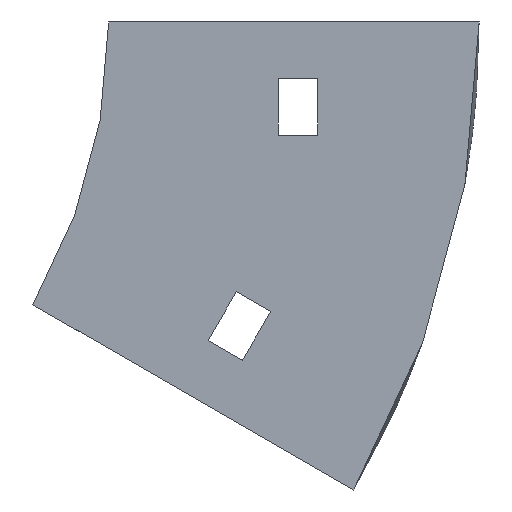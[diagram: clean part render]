
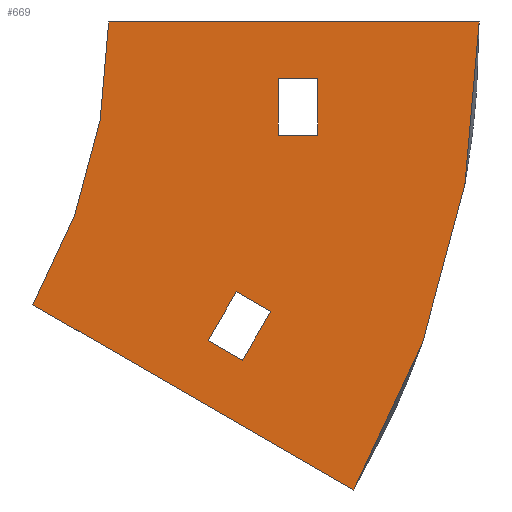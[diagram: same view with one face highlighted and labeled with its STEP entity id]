
A CAD part, left-side view. The second image highlights one B-rep face of the part: STEP entity #669.
In plain terms, the highlighted planar face has unit normal (-1, 0, 0).
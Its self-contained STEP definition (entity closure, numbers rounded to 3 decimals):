
#2 = CARTESIAN_POINT ( 'NONE',  ( -252., -65.5, 0. ) ) ;
#10 = CARTESIAN_POINT ( 'NONE',  ( -252., 100., 0. ) ) ;
#28 = CARTESIAN_POINT ( 'NONE',  ( -252., -37., -10. ) ) ;
#29 = VECTOR ( 'NONE', #73, 1000. ) ;
#42 = DIRECTION ( 'NONE',  ( 0., 0.866, 0.5 ) ) ;
#46 = VERTEX_POINT ( 'NONE', #259 ) ;
#73 = DIRECTION ( 'NONE',  ( 0., 0.5, -0.866 ) ) ;
#84 = CIRCLE ( 'NONE', #857, 165.5 ) ;
#113 = DIRECTION ( 'NONE',  ( 1., 0., 0. ) ) ;
#118 = CARTESIAN_POINT ( 'NONE',  ( -252., -65.5, 0. ) ) ;
#127 = CARTESIAN_POINT ( 'NONE',  ( -252., 13.397, -50. ) ) ;
#132 = DIRECTION ( 'NONE',  ( 0., 0., -1. ) ) ;
#140 = VERTEX_POINT ( 'NONE', #326 ) ;
#146 = ORIENTED_EDGE ( 'NONE', *, *, #171, .F. ) ;
#171 = EDGE_CURVE ( 'NONE', #46, #651, #535, .T. ) ;
#178 = DIRECTION ( 'NONE',  ( 0., -0.5, 0.866 ) ) ;
#180 = EDGE_CURVE ( 'NONE', #651, #762, #707, .T. ) ;
#181 = FACE_BOUND ( 'NONE', #893, .T. ) ;
#202 = CARTESIAN_POINT ( 'NONE',  ( -252., -30., -10. ) ) ;
#205 = ORIENTED_EDGE ( 'NONE', *, *, #297, .T. ) ;
#207 = FACE_OUTER_BOUND ( 'NONE', #215, .T. ) ;
#215 = EDGE_LOOP ( 'NONE', ( #718, #587, #1002, #828 ) ) ;
#216 = VERTEX_POINT ( 'NONE', #1130 ) ;
#224 = CARTESIAN_POINT ( 'NONE',  ( -252., -22.583, -47.679 ) ) ;
#259 = CARTESIAN_POINT ( 'NONE',  ( -252., -17.583, -56.34 ) ) ;
#270 = ORIENTED_EDGE ( 'NONE', *, *, #180, .F. ) ;
#294 = PLANE ( 'NONE',  #568 ) ;
#297 = EDGE_CURVE ( 'NONE', #310, #899, #364, .T. ) ;
#308 = LINE ( 'NONE', #2, #403 ) ;
#310 = VERTEX_POINT ( 'NONE', #1085 ) ;
#314 = CIRCLE ( 'NONE', #1102, 100. ) ;
#315 = CARTESIAN_POINT ( 'NONE',  ( -252., -28.645, -51.179 ) ) ;
#320 = CARTESIAN_POINT ( 'NONE',  ( -252., -43.327, -82.75 ) ) ;
#326 = CARTESIAN_POINT ( 'NONE',  ( -252., -37., -20. ) ) ;
#344 = VECTOR ( 'NONE', #426, 1000. ) ;
#364 = LINE ( 'NONE', #202, #854 ) ;
#366 = DIRECTION ( 'NONE',  ( 0., -1., 0. ) ) ;
#380 = FACE_BOUND ( 'NONE', #747, .T. ) ;
#387 = VERTEX_POINT ( 'NONE', #118 ) ;
#403 = VECTOR ( 'NONE', #366, 1000. ) ;
#426 = DIRECTION ( 'NONE',  ( 0., 0., -1. ) ) ;
#436 = DIRECTION ( 'NONE',  ( 0., -0.866, -0.5 ) ) ;
#447 = DIRECTION ( 'NONE',  ( 0., -1., 0. ) ) ;
#457 = DIRECTION ( 'NONE',  ( 0., 0., 1. ) ) ;
#459 = DIRECTION ( 'NONE',  ( 0., 0., -1. ) ) ;
#461 = EDGE_CURVE ( 'NONE', #899, #709, #558, .T. ) ;
#480 = CARTESIAN_POINT ( 'NONE',  ( -252., 0., 0. ) ) ;
#501 = CARTESIAN_POINT ( 'NONE',  ( -252., 100., 0. ) ) ;
#513 = VECTOR ( 'NONE', #820, 1000. ) ;
#517 = EDGE_CURVE ( 'NONE', #216, #549, #314, .T. ) ;
#530 = VECTOR ( 'NONE', #42, 1000. ) ;
#535 = LINE ( 'NONE', #770, #740 ) ;
#549 = VERTEX_POINT ( 'NONE', #480 ) ;
#558 = LINE ( 'NONE', #628, #1028 ) ;
#562 = LINE ( 'NONE', #806, #29 ) ;
#568 = AXIS2_PLACEMENT_3D ( 'NONE', #730, #647, #459 ) ;
#574 = LINE ( 'NONE', #904, #513 ) ;
#587 = ORIENTED_EDGE ( 'NONE', *, *, #666, .F. ) ;
#606 = EDGE_CURVE ( 'NONE', #762, #939, #817, .T. ) ;
#609 = VECTOR ( 'NONE', #178, 1000. ) ;
#626 = EDGE_CURVE ( 'NONE', #939, #46, #562, .T. ) ;
#628 = CARTESIAN_POINT ( 'NONE',  ( -252., -30., -10. ) ) ;
#646 = CARTESIAN_POINT ( 'NONE',  ( -252., -22.583, -47.679 ) ) ;
#647 = DIRECTION ( 'NONE',  ( 1., 0., 0. ) ) ;
#651 = VERTEX_POINT ( 'NONE', #1061 ) ;
#666 = EDGE_CURVE ( 'NONE', #931, #216, #850, .T. ) ;
#669 = ADVANCED_FACE ( 'NONE', ( #207, #181, #380 ), #294, .F. ) ;
#694 = EDGE_CURVE ( 'NONE', #140, #310, #574, .T. ) ;
#707 = LINE ( 'NONE', #985, #609 ) ;
#709 = VERTEX_POINT ( 'NONE', #28 ) ;
#712 = EDGE_CURVE ( 'NONE', #549, #387, #308, .T. ) ;
#718 = ORIENTED_EDGE ( 'NONE', *, *, #517, .F. ) ;
#720 = VECTOR ( 'NONE', #1091, 1000. ) ;
#730 = CARTESIAN_POINT ( 'NONE',  ( -252., 100., 0. ) ) ;
#740 = VECTOR ( 'NONE', #436, 1000. ) ;
#742 = DIRECTION ( 'NONE',  ( -1., 0., 0. ) ) ;
#747 = EDGE_LOOP ( 'NONE', ( #146, #830, #966, #270 ) ) ;
#751 = LINE ( 'NONE', #957, #344 ) ;
#756 = ORIENTED_EDGE ( 'NONE', *, *, #1000, .T. ) ;
#762 = VERTEX_POINT ( 'NONE', #315 ) ;
#770 = CARTESIAN_POINT ( 'NONE',  ( -252., -17.583, -56.34 ) ) ;
#790 = ORIENTED_EDGE ( 'NONE', *, *, #461, .T. ) ;
#806 = CARTESIAN_POINT ( 'NONE',  ( -252., -17.583, -56.34 ) ) ;
#817 = LINE ( 'NONE', #646, #720 ) ;
#820 = DIRECTION ( 'NONE',  ( 0., 1., 0. ) ) ;
#822 = EDGE_CURVE ( 'NONE', #387, #931, #84, .T. ) ;
#828 = ORIENTED_EDGE ( 'NONE', *, *, #712, .F. ) ;
#830 = ORIENTED_EDGE ( 'NONE', *, *, #626, .F. ) ;
#839 = CARTESIAN_POINT ( 'NONE',  ( -252., -30., -10. ) ) ;
#850 = LINE ( 'NONE', #127, #530 ) ;
#854 = VECTOR ( 'NONE', #457, 1000. ) ;
#857 = AXIS2_PLACEMENT_3D ( 'NONE', #10, #113, #925 ) ;
#887 = ORIENTED_EDGE ( 'NONE', *, *, #694, .T. ) ;
#893 = EDGE_LOOP ( 'NONE', ( #205, #790, #756, #887 ) ) ;
#899 = VERTEX_POINT ( 'NONE', #839 ) ;
#904 = CARTESIAN_POINT ( 'NONE',  ( -252., -30., -20. ) ) ;
#925 = DIRECTION ( 'NONE',  ( 0., 0., -1. ) ) ;
#931 = VERTEX_POINT ( 'NONE', #320 ) ;
#939 = VERTEX_POINT ( 'NONE', #224 ) ;
#957 = CARTESIAN_POINT ( 'NONE',  ( -252., -37., -10. ) ) ;
#966 = ORIENTED_EDGE ( 'NONE', *, *, #606, .F. ) ;
#985 = CARTESIAN_POINT ( 'NONE',  ( -252., -23.645, -59.84 ) ) ;
#1000 = EDGE_CURVE ( 'NONE', #709, #140, #751, .T. ) ;
#1002 = ORIENTED_EDGE ( 'NONE', *, *, #822, .F. ) ;
#1028 = VECTOR ( 'NONE', #447, 1000. ) ;
#1061 = CARTESIAN_POINT ( 'NONE',  ( -252., -23.645, -59.84 ) ) ;
#1085 = CARTESIAN_POINT ( 'NONE',  ( -252., -30., -20. ) ) ;
#1091 = DIRECTION ( 'NONE',  ( 0., 0.866, 0.5 ) ) ;
#1102 = AXIS2_PLACEMENT_3D ( 'NONE', #501, #742, #132 ) ;
#1130 = CARTESIAN_POINT ( 'NONE',  ( -252., 13.397, -50. ) ) ;
